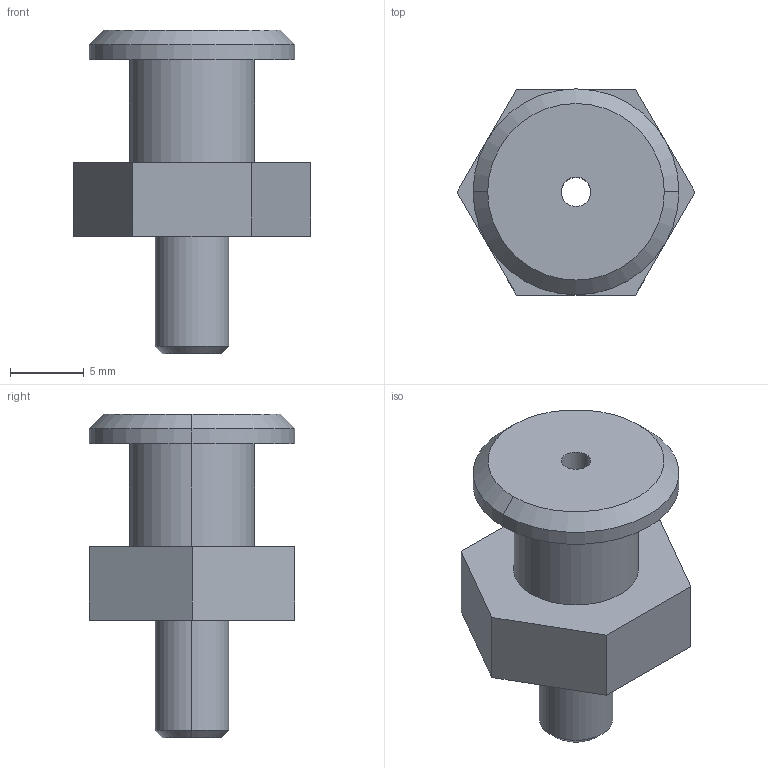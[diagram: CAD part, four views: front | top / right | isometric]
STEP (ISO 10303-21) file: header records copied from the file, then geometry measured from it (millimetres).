
FILE_DESCRIPTION (( 'STEP AP214' ), '1' );
FILE_NAME ('VM37-M5.STEP', '2023-03-07T08:47:36', ( 'Windows User' ), ( 'P R C' ), 'SwSTEP 2.0', 'SolidWorks 2019', '' );
FILE_SCHEMA (( 'AUTOMOTIVE_DESIGN' ));
Length unit declared in the file: millimetre
Products named in the file (1): VM37-M5
Bounding box: 16.17 x 14 x 22 mm (x, y, z)
Volume: 1619 mm3; surface area: 1276.9 mm2
Topology: 1 solids, 1 shells, 23 faces, 50 edges, 32 vertices
Faces by surface type: plane 11, cylinder 8, cone 4
Entity records: 670 total; most frequent: DIRECTION 118, CARTESIAN_POINT 106, ORIENTED_EDGE 100, EDGE_CURVE 50, AXIS2_PLACEMENT_3D 44, VERTEX_POINT 32, VECTOR 30, LINE 30
